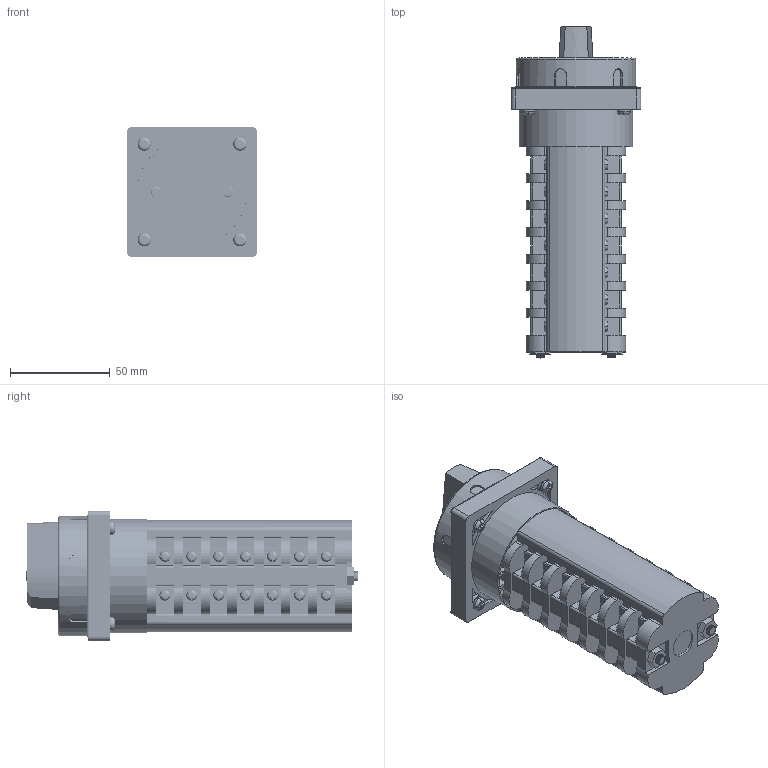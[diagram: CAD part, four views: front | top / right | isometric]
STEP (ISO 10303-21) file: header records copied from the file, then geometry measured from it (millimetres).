
FILE_DESCRIPTION(/* description */ (''),/* implementation_level */ '2;1');
FILE_NAME(/* name */ '4G16,25_S6_7_korpusow.stp',/* time_stamp */ '2021-07-21T09:51:19+02:00',/* author */ (''),/* organization */ (''),/* preprocessor_version */ 'ST-DEVELOPER v18.1',/* originating_system */ 'SIEMENS PLM Software NX 1965',/* authorisation */ '');
FILE_SCHEMA (('AUTOMOTIVE_DESIGN { 1 0 10303 214 3 1 1 1 }'));
Products named in the file (1): 4G16,25_S6_7_korpusow_stp
Bounding box: 65 x 166.6 x 65 mm (x, y, z)
Volume: 312949.1 mm3; surface area: 71103.2 mm2
Topology: 2 solids, 11 shells, 1719 faces, 4812 edges, 3165 vertices
Faces by surface type: plane 1007, cylinder 466, bspline 163, cone 62, torus 15, extrusion 6
Full cylindrical faces by diameter (mm): 2.9 x7, 3.1 x1, 4.3 x4, 5 x2, 5.4 x29, 5.6 x1, 6 x1, 6.7 x4, 7.2 x4, 8 x1, 14 x1, 55.8 x1, 57 x1, 58 x1, 60 x1
Entity records: 158515 total; most frequent: CARTESIAN_POINT 116467, ORIENTED_EDGE 9228, DIRECTION 7859, EDGE_CURVE 4614, VERTEX_POINT 3070, AXIS2_PLACEMENT_3D 2806, VECTOR 2247, LINE 2241
